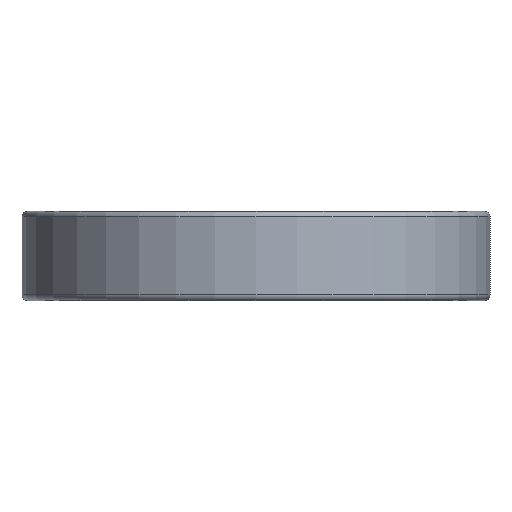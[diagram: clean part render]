
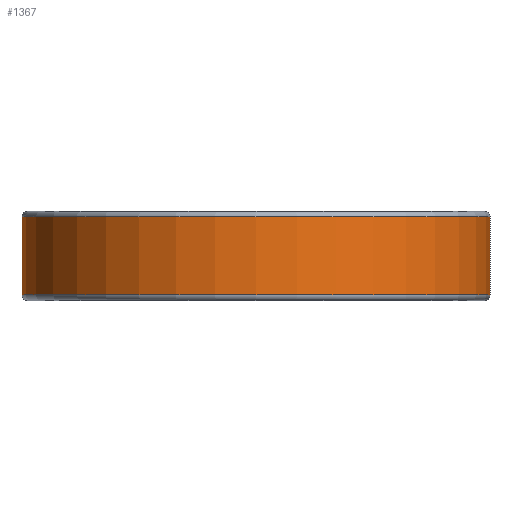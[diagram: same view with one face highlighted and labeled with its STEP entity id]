
A CAD part, front view. The second image highlights one B-rep face of the part: STEP entity #1367.
In plain terms, the highlighted cylindrical face has radius 21 mm (diameter 42 mm), a partial arc.
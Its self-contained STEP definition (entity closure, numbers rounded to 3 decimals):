
#1160 = EDGE_CURVE ( 'NONE', #3060, #15516, #4271, .T. ) ;
#1367 = ADVANCED_FACE ( 'NONE', ( #19654 ), #8044, .T. ) ;
#1574 = EDGE_CURVE ( 'NONE', #18634, #15516, #6621, .T. ) ;
#2287 = DIRECTION ( 'NONE',  ( 0., 0., -1. ) ) ;
#2875 = EDGE_CURVE ( 'NONE', #18634, #8353, #13361, .T. ) ;
#3060 = VERTEX_POINT ( 'NONE', #16567 ) ;
#4271 = CIRCLE ( 'NONE', #20939, 21. ) ;
#4935 = ORIENTED_EDGE ( 'NONE', *, *, #1574, .F. ) ;
#6621 = LINE ( 'NONE', #20481, #16221 ) ;
#6886 = CARTESIAN_POINT ( 'NONE',  ( -21., 0., 7.5 ) ) ;
#7272 = DIRECTION ( 'NONE',  ( 0., 0., -1. ) ) ;
#7904 = CARTESIAN_POINT ( 'NONE',  ( 0., 0., 8. ) ) ;
#8044 = CYLINDRICAL_SURFACE ( 'NONE', #16199, 21. ) ;
#8353 = VERTEX_POINT ( 'NONE', #6886 ) ;
#10784 = ORIENTED_EDGE ( 'NONE', *, *, #1160, .T. ) ;
#11201 = CARTESIAN_POINT ( 'NONE',  ( 0., 0., 0.5 ) ) ;
#12946 = EDGE_LOOP ( 'NONE', ( #4935, #19160, #27007, #10784 ) ) ;
#13361 = CIRCLE ( 'NONE', #20982, 21. ) ;
#14406 = LINE ( 'NONE', #28090, #29381 ) ;
#15516 = VERTEX_POINT ( 'NONE', #22120 ) ;
#15975 = DIRECTION ( 'NONE',  ( 0., 0., 1. ) ) ;
#16199 = AXIS2_PLACEMENT_3D ( 'NONE', #7904, #17422, #26499 ) ;
#16221 = VECTOR ( 'NONE', #2287, 1000. ) ;
#16567 = CARTESIAN_POINT ( 'NONE',  ( -21., 0., 0.5 ) ) ;
#16636 = DIRECTION ( 'NONE',  ( 1., 0., 0. ) ) ;
#17422 = DIRECTION ( 'NONE',  ( 0., 0., -1. ) ) ;
#18634 = VERTEX_POINT ( 'NONE', #28212 ) ;
#19160 = ORIENTED_EDGE ( 'NONE', *, *, #2875, .T. ) ;
#19654 = FACE_OUTER_BOUND ( 'NONE', #12946, .T. ) ;
#20143 = DIRECTION ( 'NONE',  ( 1., 0., 0. ) ) ;
#20481 = CARTESIAN_POINT ( 'NONE',  ( 21., 0., 8. ) ) ;
#20939 = AXIS2_PLACEMENT_3D ( 'NONE', #11201, #15975, #20143 ) ;
#20982 = AXIS2_PLACEMENT_3D ( 'NONE', #27947, #7272, #16636 ) ;
#21115 = DIRECTION ( 'NONE',  ( 0., 0., -1. ) ) ;
#22120 = CARTESIAN_POINT ( 'NONE',  ( 21., 0., 0.5 ) ) ;
#22868 = EDGE_CURVE ( 'NONE', #8353, #3060, #14406, .T. ) ;
#26499 = DIRECTION ( 'NONE',  ( -1., 0., 0. ) ) ;
#27007 = ORIENTED_EDGE ( 'NONE', *, *, #22868, .T. ) ;
#27947 = CARTESIAN_POINT ( 'NONE',  ( 0., 0., 7.5 ) ) ;
#28090 = CARTESIAN_POINT ( 'NONE',  ( -21., 0., 8. ) ) ;
#28212 = CARTESIAN_POINT ( 'NONE',  ( 21., 0., 7.5 ) ) ;
#29381 = VECTOR ( 'NONE', #21115, 1000. ) ;
